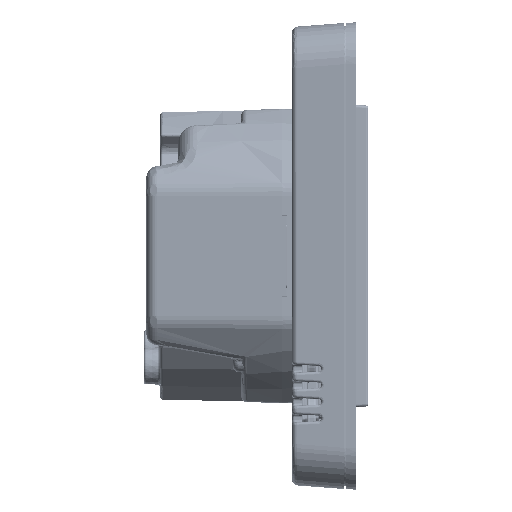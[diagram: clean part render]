
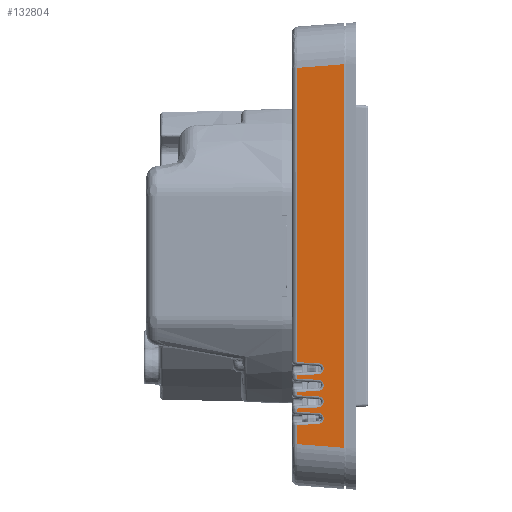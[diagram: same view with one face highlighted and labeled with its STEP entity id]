
A CAD part, left-side view. The second image highlights one B-rep face of the part: STEP entity #132804.
In plain terms, the highlighted planar face has unit normal (-0.997, 0.079, 0).
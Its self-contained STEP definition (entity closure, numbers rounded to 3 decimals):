
#9578=ELLIPSE('',#141613,1.003,1.);
#9579=ELLIPSE('',#141614,1.003,1.);
#9580=ELLIPSE('',#141615,1.003,1.);
#9581=ELLIPSE('',#141616,1.003,1.);
#15207=FACE_OUTER_BOUND('',#23158,.T.);
#23158=EDGE_LOOP('',(#95723,#95724,#95725,#95726,#95727,#95728,#95729,#95730,
#95731,#95732,#95733,#95734,#95735,#95736,#95737,#95738,#95739,#95740,#95741,
#95742));
#36215=LINE('',#199645,#46797);
#36219=LINE('',#199721,#46801);
#36223=LINE('',#199797,#46805);
#36227=LINE('',#199873,#46809);
#36231=LINE('',#199948,#46813);
#36452=LINE('',#202277,#47034);
#36453=LINE('',#202308,#47035);
#36454=LINE('',#202311,#47036);
#36455=LINE('',#202313,#47037);
#36456=LINE('',#202316,#47038);
#36457=LINE('',#202318,#47039);
#36458=LINE('',#202321,#47040);
#36459=LINE('',#202323,#47041);
#36460=LINE('',#202324,#47042);
#36461=LINE('',#202326,#47043);
#36462=LINE('',#202329,#47044);
#46797=VECTOR('',#156974,3.445);
#46801=VECTOR('',#157006,0.599);
#46805=VECTOR('',#157038,0.599);
#46809=VECTOR('',#157070,0.599);
#46813=VECTOR('',#157100,53.284);
#47034=VECTOR('',#158041,8.531);
#47035=VECTOR('',#158048,3.866);
#47036=VECTOR('',#158051,3.866);
#47037=VECTOR('',#158052,3.866);
#47038=VECTOR('',#158055,3.866);
#47039=VECTOR('',#158056,3.866);
#47040=VECTOR('',#158059,3.866);
#47041=VECTOR('',#158060,69.465);
#47042=VECTOR('',#158061,8.531);
#47043=VECTOR('',#158062,3.866);
#47044=VECTOR('',#158065,3.866);
#57660=VERTEX_POINT('',#199639);
#57661=VERTEX_POINT('',#199643);
#57668=VERTEX_POINT('',#199717);
#57669=VERTEX_POINT('',#199719);
#57676=VERTEX_POINT('',#199793);
#57677=VERTEX_POINT('',#199795);
#57684=VERTEX_POINT('',#199869);
#57685=VERTEX_POINT('',#199871);
#57692=VERTEX_POINT('',#199945);
#57693=VERTEX_POINT('',#199947);
#57999=VERTEX_POINT('',#202275);
#58001=VERTEX_POINT('',#202307);
#58002=VERTEX_POINT('',#202309);
#58003=VERTEX_POINT('',#202312);
#58004=VERTEX_POINT('',#202314);
#58005=VERTEX_POINT('',#202317);
#58006=VERTEX_POINT('',#202319);
#58007=VERTEX_POINT('',#202322);
#58008=VERTEX_POINT('',#202325);
#58009=VERTEX_POINT('',#202327);
#72408=EDGE_CURVE('',#57660,#57661,#36215,.T.);
#72422=EDGE_CURVE('',#57669,#57668,#36219,.T.);
#72436=EDGE_CURVE('',#57677,#57676,#36223,.T.);
#72450=EDGE_CURVE('',#57685,#57684,#36227,.T.);
#72463=EDGE_CURVE('',#57692,#57693,#36231,.T.);
#72957=EDGE_CURVE('',#57999,#57660,#36452,.T.);
#72960=EDGE_CURVE('',#58001,#57685,#36453,.T.);
#72961=EDGE_CURVE('',#58002,#58001,#9578,.T.);
#72962=EDGE_CURVE('',#57676,#58002,#36454,.T.);
#72963=EDGE_CURVE('',#58003,#57677,#36455,.T.);
#72964=EDGE_CURVE('',#58004,#58003,#9579,.T.);
#72965=EDGE_CURVE('',#57668,#58004,#36456,.T.);
#72966=EDGE_CURVE('',#58005,#57669,#36457,.T.);
#72967=EDGE_CURVE('',#58006,#58005,#9580,.T.);
#72968=EDGE_CURVE('',#57661,#58006,#36458,.T.);
#72969=EDGE_CURVE('',#57999,#58007,#36459,.T.);
#72970=EDGE_CURVE('',#57693,#58007,#36460,.T.);
#72971=EDGE_CURVE('',#58008,#57692,#36461,.T.);
#72972=EDGE_CURVE('',#58009,#58008,#9581,.T.);
#72973=EDGE_CURVE('',#57684,#58009,#36462,.T.);
#95723=ORIENTED_EDGE('',*,*,#72960,.F.);
#95724=ORIENTED_EDGE('',*,*,#72961,.F.);
#95725=ORIENTED_EDGE('',*,*,#72962,.F.);
#95726=ORIENTED_EDGE('',*,*,#72436,.F.);
#95727=ORIENTED_EDGE('',*,*,#72963,.F.);
#95728=ORIENTED_EDGE('',*,*,#72964,.F.);
#95729=ORIENTED_EDGE('',*,*,#72965,.F.);
#95730=ORIENTED_EDGE('',*,*,#72422,.F.);
#95731=ORIENTED_EDGE('',*,*,#72966,.F.);
#95732=ORIENTED_EDGE('',*,*,#72967,.F.);
#95733=ORIENTED_EDGE('',*,*,#72968,.F.);
#95734=ORIENTED_EDGE('',*,*,#72408,.F.);
#95735=ORIENTED_EDGE('',*,*,#72957,.F.);
#95736=ORIENTED_EDGE('',*,*,#72969,.T.);
#95737=ORIENTED_EDGE('',*,*,#72970,.F.);
#95738=ORIENTED_EDGE('',*,*,#72463,.F.);
#95739=ORIENTED_EDGE('',*,*,#72971,.F.);
#95740=ORIENTED_EDGE('',*,*,#72972,.F.);
#95741=ORIENTED_EDGE('',*,*,#72973,.F.);
#95742=ORIENTED_EDGE('',*,*,#72450,.F.);
#129561=PLANE('',#141612);
#132804=ADVANCED_FACE('',(#15207),#129561,.T.);
#141612=AXIS2_PLACEMENT_3D('',#202306,#158046,#158047);
#141613=AXIS2_PLACEMENT_3D('',#202310,#158049,#158050);
#141614=AXIS2_PLACEMENT_3D('',#202315,#158053,#158054);
#141615=AXIS2_PLACEMENT_3D('',#202320,#158057,#158058);
#141616=AXIS2_PLACEMENT_3D('',#202328,#158063,#158064);
#156974=DIRECTION('',(0.,0.,1.));
#157006=DIRECTION('',(0.,0.,1.));
#157038=DIRECTION('',(0.,0.,1.));
#157070=DIRECTION('',(0.,0.,1.));
#157100=DIRECTION('',(0.,0.,1.));
#158041=DIRECTION('',(0.078,0.994,0.078));
#158046=DIRECTION('center_axis',(-0.997,0.078,0.));
#158047=DIRECTION('ref_axis',(0.,0.,
-1.));
#158048=DIRECTION('',(0.078,0.996,0.052));
#158049=DIRECTION('center_axis',(-0.997,0.078,0.));
#158050=DIRECTION('ref_axis',(-0.078,-0.997,0.));
#158051=DIRECTION('',(-0.078,-0.996,0.052));
#158052=DIRECTION('',(0.078,0.996,0.052));
#158053=DIRECTION('center_axis',(-0.997,0.078,0.));
#158054=DIRECTION('ref_axis',(-0.078,-0.997,0.));
#158055=DIRECTION('',(-0.078,-0.996,0.052));
#158056=DIRECTION('',(0.078,0.996,0.052));
#158057=DIRECTION('center_axis',(-0.997,0.078,0.));
#158058=DIRECTION('ref_axis',(-0.078,-0.997,0.));
#158059=DIRECTION('',(-0.078,-0.996,0.052));
#158060=DIRECTION('',(0.,0.,1.));
#158061=DIRECTION('',(-0.078,-0.994,0.078));
#158062=DIRECTION('',(0.078,0.996,0.052));
#158063=DIRECTION('center_axis',(-0.997,0.078,0.));
#158064=DIRECTION('ref_axis',(-0.078,-0.997,0.));
#158065=DIRECTION('',(-0.078,-0.996,0.052));
#199639=CARTESIAN_POINT('',(-45.811,1.578,-34.065));
#199643=CARTESIAN_POINT('',(-45.811,1.578,-30.62));
#199645=CARTESIAN_POINT('',(-45.811,1.578,-34.065));
#199717=CARTESIAN_POINT('',(-45.811,1.578,-27.62));
#199719=CARTESIAN_POINT('',(-45.811,1.578,-28.219));
#199721=CARTESIAN_POINT('',(-45.811,1.578,-28.219));
#199793=CARTESIAN_POINT('',(-45.811,1.578,-24.62));
#199795=CARTESIAN_POINT('',(-45.811,1.578,-25.219));
#199797=CARTESIAN_POINT('',(-45.811,1.578,-25.219));
#199869=CARTESIAN_POINT('',(-45.811,1.578,-21.62));
#199871=CARTESIAN_POINT('',(-45.811,1.578,-22.219));
#199873=CARTESIAN_POINT('',(-45.811,1.578,-22.219));
#199945=CARTESIAN_POINT('',(-45.811,1.578,-19.219));
#199947=CARTESIAN_POINT('',(-45.811,1.578,34.065));
#199948=CARTESIAN_POINT('',(-45.811,1.578,-19.219));
#202275=CARTESIAN_POINT('',(-46.479,-6.9,-34.732));
#202277=CARTESIAN_POINT('',(-46.479,-6.9,-34.732));
#202306=CARTESIAN_POINT('Origin',(-45.739,2.5,41.469));
#202307=CARTESIAN_POINT('',(-46.114,-2.27,-22.421));
#202308=CARTESIAN_POINT('',(-46.114,-2.27,-22.421));
#202309=CARTESIAN_POINT('',(-46.114,-2.27,-24.418));
#202310=CARTESIAN_POINT('Origin',(-46.11,-2.218,-23.42));
#202311=CARTESIAN_POINT('',(-45.811,1.578,-24.62));
#202312=CARTESIAN_POINT('',(-46.114,-2.27,-25.421));
#202313=CARTESIAN_POINT('',(-46.114,-2.27,-25.421));
#202314=CARTESIAN_POINT('',(-46.114,-2.27,-27.418));
#202315=CARTESIAN_POINT('Origin',(-46.11,-2.218,-26.42));
#202316=CARTESIAN_POINT('',(-45.811,1.578,-27.62));
#202317=CARTESIAN_POINT('',(-46.114,-2.27,-28.421));
#202318=CARTESIAN_POINT('',(-46.114,-2.27,-28.421));
#202319=CARTESIAN_POINT('',(-46.114,-2.27,-30.418));
#202320=CARTESIAN_POINT('Origin',(-46.11,-2.218,-29.42));
#202321=CARTESIAN_POINT('',(-45.811,1.578,-30.62));
#202322=CARTESIAN_POINT('',(-46.479,-6.9,34.732));
#202323=CARTESIAN_POINT('',(-46.479,-6.9,-34.732));
#202324=CARTESIAN_POINT('',(-45.811,1.578,34.065));
#202325=CARTESIAN_POINT('',(-46.114,-2.27,-19.421));
#202326=CARTESIAN_POINT('',(-46.114,-2.27,-19.421));
#202327=CARTESIAN_POINT('',(-46.114,-2.27,-21.418));
#202328=CARTESIAN_POINT('Origin',(-46.11,-2.218,-20.42));
#202329=CARTESIAN_POINT('',(-45.811,1.578,-21.62));
